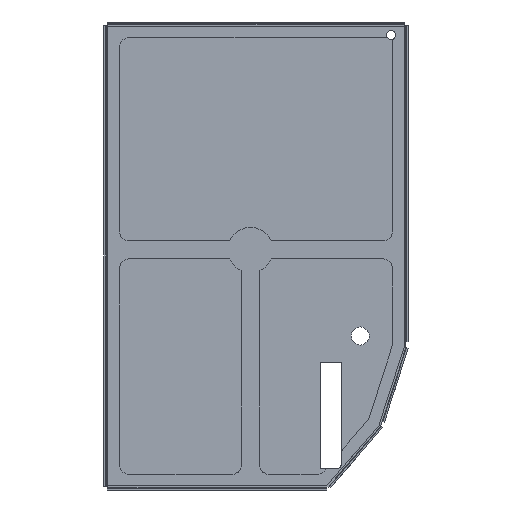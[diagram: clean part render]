
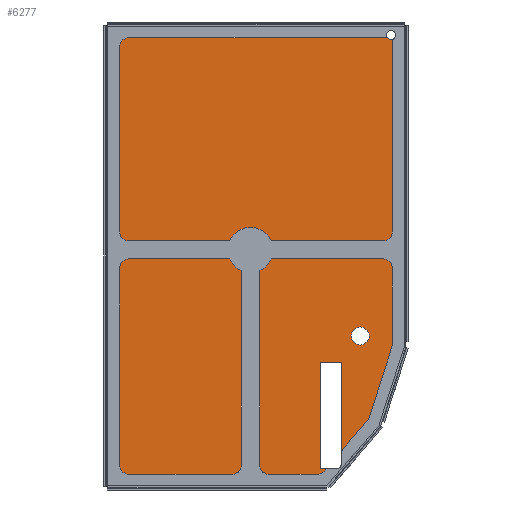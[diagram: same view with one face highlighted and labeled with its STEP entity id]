
A CAD part, front view. The second image highlights one B-rep face of the part: STEP entity #6277.
In plain terms, the highlighted planar face has unit normal (0, -1, 0).
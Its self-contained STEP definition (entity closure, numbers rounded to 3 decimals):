
#4436=DIRECTION('',(-1.,0.,0.));
#4437=VECTOR('',#4436,32.92);
#4438=CARTESIAN_POINT('',(33.12,-0.2,-2.2));
#4439=LINE('',#4438,#4437);
#4581=DIRECTION('',(0.,0.,-1.));
#4582=VECTOR('',#4581,51.05);
#4583=CARTESIAN_POINT('',(0.2,-0.2,-2.2));
#4584=LINE('',#4583,#4582);
#4593=DIRECTION('',(1.,0.,0.));
#4594=VECTOR('',#4593,24.3);
#4595=CARTESIAN_POINT('',(0.2,-0.2,-53.25));
#4596=LINE('',#4595,#4594);
#4616=DIRECTION('',(0.,0.,-1.));
#4617=VECTOR('',#4616,0.583);
#4618=CARTESIAN_POINT('',(33.12,-0.2,-37.244));
#4619=LINE('',#4618,#4617);
#4620=DIRECTION('',(-1.,0.,0.));
#4621=VECTOR('',#4620,0.013);
#4622=CARTESIAN_POINT('',(33.133,-0.2,-37.827));
#4623=LINE('',#4622,#4621);
#4624=DIRECTION('',(0.305,0.,0.952));
#4625=VECTOR('',#4624,0.012);
#4626=CARTESIAN_POINT('',(33.13,-0.2,-37.839));
#4627=LINE('',#4626,#4625);
#4628=DIRECTION('',(-0.305,0.,-0.952));
#4629=VECTOR('',#4628,0.471);
#4630=CARTESIAN_POINT('',(30.516,-0.2,-46.002));
#4631=LINE('',#4630,#4629);
#4632=DIRECTION('',(0.653,0.,0.757));
#4633=VECTOR('',#4632,0.009);
#4634=CARTESIAN_POINT('',(30.366,-0.2,-46.457));
#4635=LINE('',#4634,#4633);
#4636=DIRECTION('',(-0.653,0.,-0.757));
#4637=VECTOR('',#4636,0.172);
#4638=CARTESIAN_POINT('',(24.621,-0.2,-53.119));
#4639=LINE('',#4638,#4637);
#4640=DIRECTION('',(1.,0.,0.));
#4641=VECTOR('',#4640,0.008);
#4642=CARTESIAN_POINT('',(24.5,-0.2,-53.25));
#4643=LINE('',#4642,#4641);
#4644=CARTESIAN_POINT('',(31.62,-0.2,-3.25));
#4645=DIRECTION('',(0.,1.,0.));
#4646=DIRECTION('',(1.,0.,0.));
#4647=AXIS2_PLACEMENT_3D('',#4644,#4645,#4646);
#4649=CARTESIAN_POINT('',(31.62,-0.2,-3.25));
#4650=DIRECTION('',(0.,1.,0.));
#4651=DIRECTION('',(-1.,0.,0.));
#4652=AXIS2_PLACEMENT_3D('',#4649,#4650,#4651);
#4654=CARTESIAN_POINT('',(28.2,-0.2,-36.59));
#4655=DIRECTION('',(0.,1.,0.));
#4656=DIRECTION('',(1.,0.,0.));
#4657=AXIS2_PLACEMENT_3D('',#4654,#4655,#4656);
#4659=CARTESIAN_POINT('',(28.2,-0.2,-36.59));
#4660=DIRECTION('',(0.,1.,0.));
#4661=DIRECTION('',(-1.,0.,0.));
#4662=AXIS2_PLACEMENT_3D('',#4659,#4660,#4661);
#4664=DIRECTION('',(1.,0.,0.));
#4665=VECTOR('',#4664,2.35);
#4666=CARTESIAN_POINT('',(23.78,-0.2,-39.514));
#4667=LINE('',#4666,#4665);
#4668=DIRECTION('',(0.,0.,1.));
#4669=VECTOR('',#4668,11.8);
#4670=CARTESIAN_POINT('',(23.78,-0.2,-51.314));
#4671=LINE('',#4670,#4669);
#4672=DIRECTION('',(-1.,0.,0.));
#4673=VECTOR('',#4672,2.35);
#4674=CARTESIAN_POINT('',(26.13,-0.2,-51.314));
#4675=LINE('',#4674,#4673);
#4676=DIRECTION('',(0.,0.,-1.));
#4677=VECTOR('',#4676,11.8);
#4678=CARTESIAN_POINT('',(26.13,-0.2,-39.514));
#4679=LINE('',#4678,#4677);
#4704=DIRECTION('',(0.,0.,1.));
#4705=VECTOR('',#4704,35.044);
#4706=CARTESIAN_POINT('',(33.12,-0.2,-37.244));
#4707=LINE('',#4706,#4705);
#4916=DIRECTION('',(0.653,0.,0.757));
#4917=VECTOR('',#4916,8.797);
#4918=CARTESIAN_POINT('',(24.621,-0.2,-53.119));
#4919=LINE('',#4918,#4917);
#5207=DIRECTION('',(0.305,0.,0.952));
#5208=VECTOR('',#5207,8.571);
#5209=CARTESIAN_POINT('',(30.516,-0.2,-46.002));
#5210=LINE('',#5209,#5208);
#5629=CARTESIAN_POINT('',(0.2,-0.2,-2.2));
#5630=VERTEX_POINT('',#5629);
#5633=CARTESIAN_POINT('',(0.2,-0.2,-53.25));
#5634=VERTEX_POINT('',#5633);
#5645=CARTESIAN_POINT('',(24.5,-0.2,-53.25));
#5647=VERTEX_POINT('',#5645);
#5657=CARTESIAN_POINT('',(30.366,-0.2,-46.457));
#5658=VERTEX_POINT('',#5657);
#5669=CARTESIAN_POINT('',(24.621,-0.2,-53.119));
#5670=CARTESIAN_POINT('',(24.508,-0.2,-53.25));
#5671=VERTEX_POINT('',#5669);
#5672=VERTEX_POINT('',#5670);
#5689=CARTESIAN_POINT('',(30.516,-0.2,-46.002));
#5690=CARTESIAN_POINT('',(30.372,-0.2,-46.45));
#5691=VERTEX_POINT('',#5689);
#5692=VERTEX_POINT('',#5690);
#5693=CARTESIAN_POINT('',(33.13,-0.2,-37.839));
#5695=VERTEX_POINT('',#5693);
#5715=CARTESIAN_POINT('',(33.12,-0.2,-37.244));
#5716=CARTESIAN_POINT('',(33.12,-0.2,-37.827));
#5717=VERTEX_POINT('',#5715);
#5718=VERTEX_POINT('',#5716);
#5719=CARTESIAN_POINT('',(33.133,-0.2,-37.827));
#5720=VERTEX_POINT('',#5719);
#5721=CARTESIAN_POINT('',(33.12,-0.2,-2.2));
#5722=VERTEX_POINT('',#5721);
#5853=CARTESIAN_POINT('',(32.12,-0.2,-3.25));
#5854=CARTESIAN_POINT('',(31.12,-0.2,-3.25));
#5855=VERTEX_POINT('',#5853);
#5856=VERTEX_POINT('',#5854);
#5857=CARTESIAN_POINT('',(29.2,-0.2,-36.59));
#5858=CARTESIAN_POINT('',(27.2,-0.2,-36.59));
#5859=VERTEX_POINT('',#5857);
#5860=VERTEX_POINT('',#5858);
#5869=CARTESIAN_POINT('',(23.78,-0.2,-39.514));
#5870=CARTESIAN_POINT('',(26.13,-0.2,-39.514));
#5871=VERTEX_POINT('',#5869);
#5872=VERTEX_POINT('',#5870);
#5873=CARTESIAN_POINT('',(26.13,-0.2,-51.314));
#5874=VERTEX_POINT('',#5873);
#5875=CARTESIAN_POINT('',(23.78,-0.2,-51.314));
#5876=VERTEX_POINT('',#5875);
#6225=CARTESIAN_POINT('',(0.,-0.2,0.));
#6226=DIRECTION('',(0.,1.,0.));
#6227=DIRECTION('',(1.,0.,0.));
#6228=AXIS2_PLACEMENT_3D('',#6225,#6226,#6227);
#6229=PLANE('',#6228);
#6230=ORIENTED_EDGE('',*,*,#5990,.F.);
#6232=ORIENTED_EDGE('',*,*,#6231,.F.);
#6234=ORIENTED_EDGE('',*,*,#6233,.T.);
#6236=ORIENTED_EDGE('',*,*,#6235,.F.);
#6238=ORIENTED_EDGE('',*,*,#6237,.F.);
#6240=ORIENTED_EDGE('',*,*,#6239,.F.);
#6242=ORIENTED_EDGE('',*,*,#6241,.T.);
#6244=ORIENTED_EDGE('',*,*,#6243,.F.);
#6246=ORIENTED_EDGE('',*,*,#6245,.F.);
#6248=ORIENTED_EDGE('',*,*,#6247,.T.);
#6250=ORIENTED_EDGE('',*,*,#6249,.F.);
#6251=ORIENTED_EDGE('',*,*,#6213,.F.);
#6252=ORIENTED_EDGE('',*,*,#6173,.F.);
#6253=EDGE_LOOP('',(#6230,#6232,#6234,#6236,#6238,#6240,#6242,#6244,#6246,#6248,
#6250,#6251,#6252));
#6254=FACE_OUTER_BOUND('',#6253,.F.);
#6256=ORIENTED_EDGE('',*,*,#6255,.F.);
#6258=ORIENTED_EDGE('',*,*,#6257,.F.);
#6259=EDGE_LOOP('',(#6256,#6258));
#6260=FACE_BOUND('',#6259,.F.);
#6262=ORIENTED_EDGE('',*,*,#6261,.F.);
#6264=ORIENTED_EDGE('',*,*,#6263,.F.);
#6265=EDGE_LOOP('',(#6262,#6264));
#6266=FACE_BOUND('',#6265,.F.);
#6268=ORIENTED_EDGE('',*,*,#6267,.F.);
#6270=ORIENTED_EDGE('',*,*,#6269,.F.);
#6272=ORIENTED_EDGE('',*,*,#6271,.F.);
#6274=ORIENTED_EDGE('',*,*,#6273,.F.);
#6275=EDGE_LOOP('',(#6268,#6270,#6272,#6274));
#6276=FACE_BOUND('',#6275,.F.);
#6277=ADVANCED_FACE('',(#6254,#6260,#6266,#6276),#6229,.F.);
#4648=CIRCLE('',#4647,0.5);
#4653=CIRCLE('',#4652,0.5);
#4658=CIRCLE('',#4657,1.);
#4663=CIRCLE('',#4662,1.);
#5990=EDGE_CURVE('',#5722,#5630,#4439,.T.);
#6173=EDGE_CURVE('',#5630,#5634,#4584,.T.);
#6213=EDGE_CURVE('',#5634,#5647,#4596,.T.);
#6231=EDGE_CURVE('',#5717,#5722,#4707,.T.);
#6233=EDGE_CURVE('',#5717,#5718,#4619,.T.);
#6235=EDGE_CURVE('',#5720,#5718,#4623,.T.);
#6237=EDGE_CURVE('',#5695,#5720,#4627,.T.);
#6239=EDGE_CURVE('',#5691,#5695,#5210,.T.);
#6241=EDGE_CURVE('',#5691,#5692,#4631,.T.);
#6243=EDGE_CURVE('',#5658,#5692,#4635,.T.);
#6245=EDGE_CURVE('',#5671,#5658,#4919,.T.);
#6247=EDGE_CURVE('',#5671,#5672,#4639,.T.);
#6249=EDGE_CURVE('',#5647,#5672,#4643,.T.);
#6255=EDGE_CURVE('',#5855,#5856,#4648,.T.);
#6257=EDGE_CURVE('',#5856,#5855,#4653,.T.);
#6261=EDGE_CURVE('',#5859,#5860,#4658,.T.);
#6263=EDGE_CURVE('',#5860,#5859,#4663,.T.);
#6267=EDGE_CURVE('',#5871,#5872,#4667,.T.);
#6269=EDGE_CURVE('',#5876,#5871,#4671,.T.);
#6271=EDGE_CURVE('',#5874,#5876,#4675,.T.);
#6273=EDGE_CURVE('',#5872,#5874,#4679,.T.);
